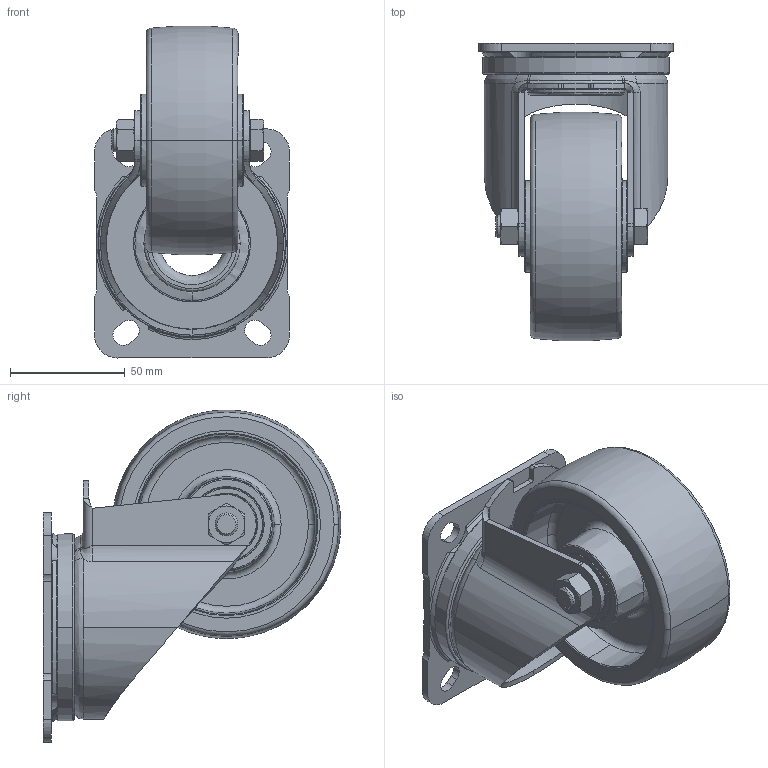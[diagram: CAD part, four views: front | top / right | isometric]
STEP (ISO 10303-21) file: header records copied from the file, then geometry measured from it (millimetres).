
FILE_DESCRIPTION (( 'STEP AP214' ), '1' );
FILE_NAME ('LK-ALTH_100K-1_265769-214.step', '2013-01-12T12:15:08', ( '' ), ( '' ), 'SwSTEP 2.0', 'SolidWorks 2012', '' );
FILE_SCHEMA (( 'AUTOMOTIVE_DESIGN' ));
Length unit declared in the file: millimetre
Products named in the file (5): AM_LK_10x50x2,5_G; ALTH_G15_ALTH_100_15K_231191; ALTH_100_15K_G15; GH-LK_100-1_G15; LK-ALTH_100K-1_265769-214
Assembly tree (4 placements, depth 3):
  LK-ALTH_100K-1_265769-214
    GH-LK_100-1_G15
    ALTH_G15_ALTH_100_15K_231191
      ALTH_100_15K_G15
    AM_LK_10x50x2,5_G
Bounding box: 85 x 129.88 x 144.88 mm (x, y, z)
Volume: 305241.2 mm3; surface area: 90401.7 mm2
Topology: 3 solids, 3 shells, 939 faces, 2416 edges, 1555 vertices
Faces by surface type: plane 392, bspline 350, cylinder 98, cone 57, torus 42
Entity records: 52446 total; most frequent: CARTESIAN_POINT 24275, ORIENTED_EDGE 4832, DIRECTION 3338, EDGE_CURVE 2416, VERTEX_POINT 1555, VECTOR 1250, LINE 1250, AXIS2_PLACEMENT_3D 1044
